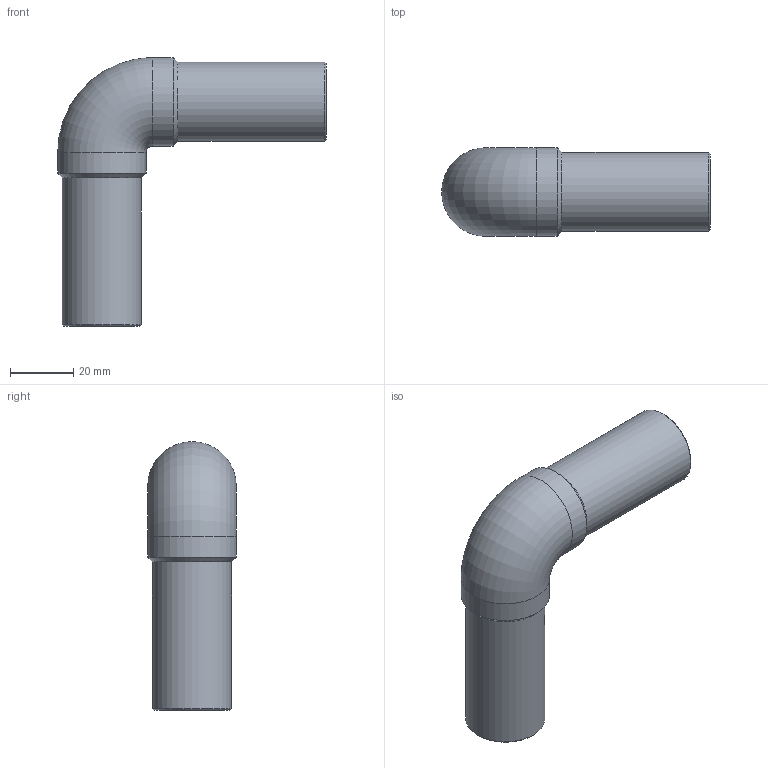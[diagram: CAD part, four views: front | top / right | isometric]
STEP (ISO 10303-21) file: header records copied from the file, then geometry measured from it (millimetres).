
FILE_DESCRIPTION(/* description */ ('Unknown'),/* implementation_level */ '2;1');
FILE_NAME(/* name */ 'G9P025C',/* time_stamp */ '2021-11-15T11:29:05+01:00',/* author */ ('Unknown'),/* organization */ ('Unknown'),/* preprocessor_version */ 'ST-DEVELOPER v16.7',/* originating_system */ 'Solid Edge',/* authorisation */ 'Unknown');
FILE_SCHEMA (('AUTOMOTIVE_DESIGN {1 0 10303 214 3 1 1}'));
Length unit declared in the file: millimetre
Products named in the file (1): G9P025C
Bounding box: 85 x 28 x 85 mm (x, y, z)
Volume: 33254.6 mm3; surface area: 19541.3 mm2
Topology: 1 solids, 1 shells, 14 faces, 34 edges, 22 vertices
Faces by surface type: cylinder 6, cone 4, plane 2, torus 2
Full cylindrical faces by diameter (mm): 19 x2, 25 x2, 28 x2
Entity records: 368 total; most frequent: CARTESIAN_POINT 68, DIRECTION 60, ORIENTED_EDGE 38, AXIS2_PLACEMENT_3D 30, EDGE_LOOP 27, FACE_BOUND 27, EDGE_CURVE 19, VERTEX_POINT 18
